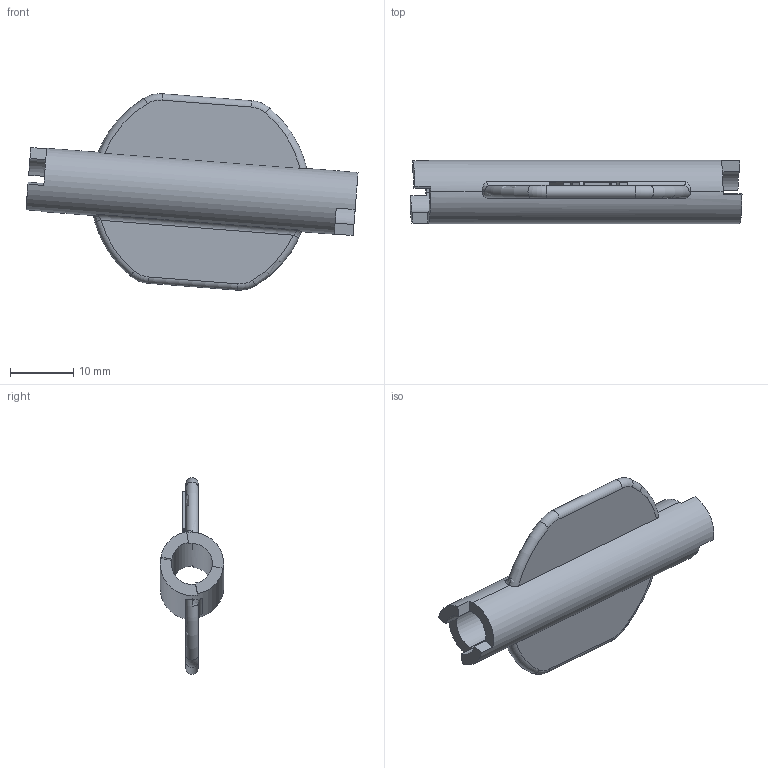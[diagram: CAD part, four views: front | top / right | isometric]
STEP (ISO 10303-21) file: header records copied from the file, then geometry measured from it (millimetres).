
FILE_DESCRIPTION((''),'2;1');
FILE_NAME('0000237134_PRT','2025-11-12T18:36:37',('Wyndorps'),(''),'CREO PARAMETRIC BY PTC INC, 2025010','CREO PARAMETRIC BY PTC INC, 2025010','');
FILE_SCHEMA(('CONFIG_CONTROL_DESIGN'));
Length unit declared in the file: millimetre
Products named in the file (1): 0000237134_PRT
Bounding box: 52.36 x 10 x 30.96 mm (x, y, z)
Volume: 3286.4 mm3; surface area: 3741.8 mm2
Topology: 1 solids, 1 shells, 84 faces, 229 edges, 150 vertices
Faces by surface type: plane 46, extrusion 14, cylinder 12, torus 8, bspline 4
Entity records: 3098 total; most frequent: CARTESIAN_POINT 986, ORIENTED_EDGE 458, DIRECTION 383, EDGE_CURVE 229, VERTEX_POINT 150, VECTOR 139, LINE 125, AXIS2_PLACEMENT_3D 122
